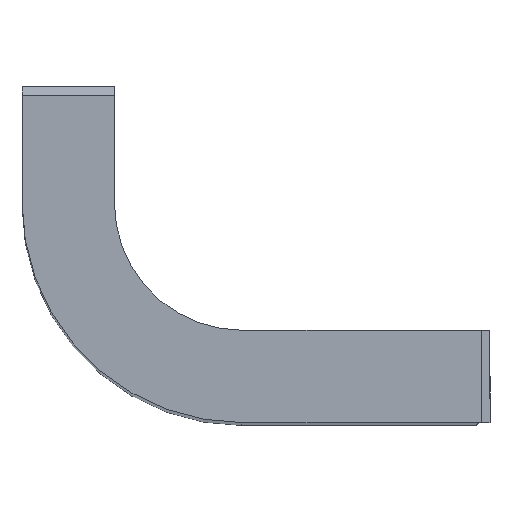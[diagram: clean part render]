
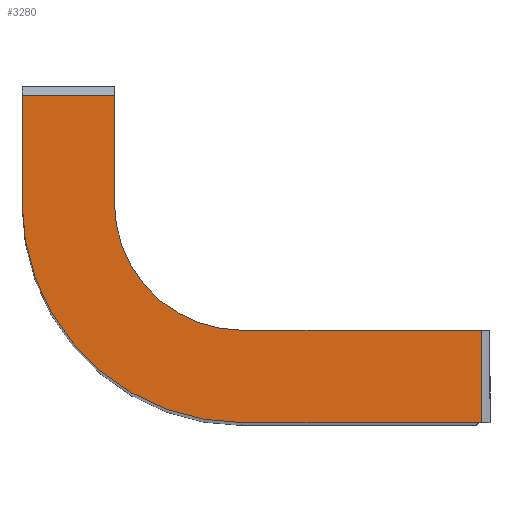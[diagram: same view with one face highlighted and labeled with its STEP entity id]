
A CAD part, top view. The second image highlights one B-rep face of the part: STEP entity #3280.
In plain terms, the highlighted planar face has unit normal (0, 0, 1).
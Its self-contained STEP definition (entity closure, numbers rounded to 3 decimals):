
#9 = CARTESIAN_POINT ( 'NONE',  ( -14.5, 0., 373.5 ) ) ;
#93 = CARTESIAN_POINT ( 'NONE',  ( 27.2, -14.5, 373.5 ) ) ;
#125 = EDGE_LOOP ( 'NONE', ( #2764, #428, #422, #3428, #398, #837, #2874, #2724 ) ) ;
#177 = DIRECTION ( 'NONE',  ( 1., 0., 0. ) ) ;
#267 = CARTESIAN_POINT ( 'NONE',  ( 0., -14.5, 373.5 ) ) ;
#281 = VERTEX_POINT ( 'NONE', #1248 ) ;
#385 = EDGE_CURVE ( 'NONE', #3353, #1152, #3052, .T. ) ;
#397 = CARTESIAN_POINT ( 'NONE',  ( -14.5, 12.2, 373.5 ) ) ;
#398 = ORIENTED_EDGE ( 'NONE', *, *, #3322, .T. ) ;
#422 = ORIENTED_EDGE ( 'NONE', *, *, #385, .T. ) ;
#428 = ORIENTED_EDGE ( 'NONE', *, *, #1250, .T. ) ;
#457 = CARTESIAN_POINT ( 'NONE',  ( 0., 0., 373.5 ) ) ;
#523 = VECTOR ( 'NONE', #3040, 1000. ) ;
#586 = PLANE ( 'NONE',  #1755 ) ;
#657 = LINE ( 'NONE', #1414, #1714 ) ;
#669 = CARTESIAN_POINT ( 'NONE',  ( -14.5, 13.2, 373.5 ) ) ;
#837 = ORIENTED_EDGE ( 'NONE', *, *, #1393, .T. ) ;
#911 = DIRECTION ( 'NONE',  ( 0., 0., -1. ) ) ;
#923 = LINE ( 'NONE', #2094, #1174 ) ;
#984 = CARTESIAN_POINT ( 'NONE',  ( -25., 12.2, 373.5 ) ) ;
#1000 = VECTOR ( 'NONE', #2885, 1000. ) ;
#1152 = VERTEX_POINT ( 'NONE', #2436 ) ;
#1158 = CARTESIAN_POINT ( 'NONE',  ( 0., -25., 373.5 ) ) ;
#1174 = VECTOR ( 'NONE', #1578, 1000. ) ;
#1200 = DIRECTION ( 'NONE',  ( -1., 0., 0. ) ) ;
#1222 = DIRECTION ( 'NONE',  ( 0., 0., 1. ) ) ;
#1248 = CARTESIAN_POINT ( 'NONE',  ( -25., 12.2, 373.5 ) ) ;
#1250 = EDGE_CURVE ( 'NONE', #1609, #3353, #657, .T. ) ;
#1275 = VERTEX_POINT ( 'NONE', #1158 ) ;
#1320 = CARTESIAN_POINT ( 'NONE',  ( 27.2, -25., 373.5 ) ) ;
#1355 = DIRECTION ( 'NONE',  ( 0., 0., 1. ) ) ;
#1393 = EDGE_CURVE ( 'NONE', #3381, #281, #2999, .T. ) ;
#1414 = CARTESIAN_POINT ( 'NONE',  ( 27.2, -14.5, 373.5 ) ) ;
#1519 = VERTEX_POINT ( 'NONE', #9 ) ;
#1578 = DIRECTION ( 'NONE',  ( 1., 0., 0. ) ) ;
#1609 = VERTEX_POINT ( 'NONE', #1320 ) ;
#1662 = DIRECTION ( 'NONE',  ( 0., 1., 0. ) ) ;
#1671 = VECTOR ( 'NONE', #1200, 1000. ) ;
#1687 = AXIS2_PLACEMENT_3D ( 'NONE', #457, #911, #2292 ) ;
#1690 = DIRECTION ( 'NONE',  ( 1., 0., 0. ) ) ;
#1714 = VECTOR ( 'NONE', #1662, 1000. ) ;
#1755 = AXIS2_PLACEMENT_3D ( 'NONE', #1872, #1355, #1690 ) ;
#1864 = EDGE_CURVE ( 'NONE', #1275, #1609, #923, .T. ) ;
#1872 = CARTESIAN_POINT ( 'NONE',  ( 0., 0., 373.5 ) ) ;
#1937 = EDGE_CURVE ( 'NONE', #2893, #1275, #3413, .T. ) ;
#1989 = AXIS2_PLACEMENT_3D ( 'NONE', #2986, #1222, #177 ) ;
#1990 = FACE_OUTER_BOUND ( 'NONE', #125, .T. ) ;
#2081 = CARTESIAN_POINT ( 'NONE',  ( -25., 0., 373.5 ) ) ;
#2094 = CARTESIAN_POINT ( 'NONE',  ( 26.7, -25., 373.5 ) ) ;
#2292 = DIRECTION ( 'NONE',  ( 1., 0., 0. ) ) ;
#2342 = DIRECTION ( 'NONE',  ( -1., 0., 0. ) ) ;
#2436 = CARTESIAN_POINT ( 'NONE',  ( 0., -14.5, 373.5 ) ) ;
#2465 = EDGE_CURVE ( 'NONE', #281, #2893, #3325, .T. ) ;
#2533 = LINE ( 'NONE', #669, #523 ) ;
#2613 = CARTESIAN_POINT ( 'NONE',  ( -25., 11.7, 373.5 ) ) ;
#2724 = ORIENTED_EDGE ( 'NONE', *, *, #1937, .T. ) ;
#2764 = ORIENTED_EDGE ( 'NONE', *, *, #1864, .T. ) ;
#2874 = ORIENTED_EDGE ( 'NONE', *, *, #2465, .T. ) ;
#2885 = DIRECTION ( 'NONE',  ( 0., -1., 0. ) ) ;
#2893 = VERTEX_POINT ( 'NONE', #2081 ) ;
#2939 = EDGE_CURVE ( 'NONE', #1152, #1519, #3077, .T. ) ;
#2960 = VECTOR ( 'NONE', #2342, 1000. ) ;
#2986 = CARTESIAN_POINT ( 'NONE',  ( 0., 0., 373.5 ) ) ;
#2999 = LINE ( 'NONE', #984, #1671 ) ;
#3040 = DIRECTION ( 'NONE',  ( 0., 1., 0. ) ) ;
#3052 = LINE ( 'NONE', #267, #2960 ) ;
#3077 = CIRCLE ( 'NONE', #1687, 14.5 ) ;
#3280 = ADVANCED_FACE ( 'NONE', ( #1990 ), #586, .T. ) ;
#3322 = EDGE_CURVE ( 'NONE', #1519, #3381, #2533, .T. ) ;
#3325 = LINE ( 'NONE', #2613, #1000 ) ;
#3353 = VERTEX_POINT ( 'NONE', #93 ) ;
#3381 = VERTEX_POINT ( 'NONE', #397 ) ;
#3413 = CIRCLE ( 'NONE', #1989, 25. ) ;
#3428 = ORIENTED_EDGE ( 'NONE', *, *, #2939, .T. ) ;
